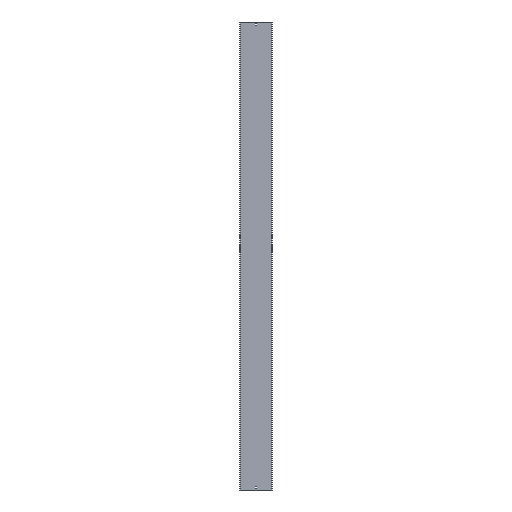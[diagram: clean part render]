
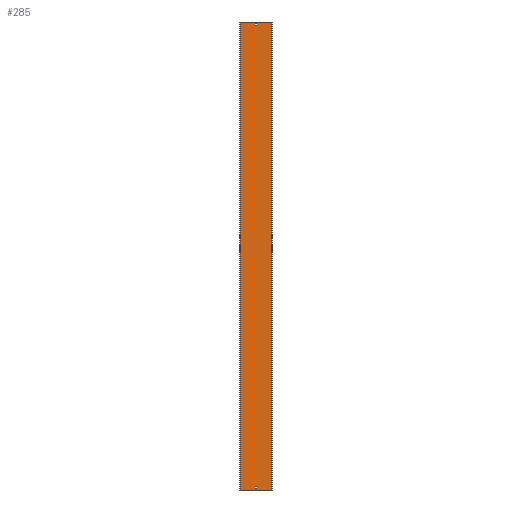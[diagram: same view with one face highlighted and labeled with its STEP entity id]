
A CAD part, front view. The second image highlights one B-rep face of the part: STEP entity #285.
In plain terms, the highlighted planar face has unit normal (0, -1, 0).
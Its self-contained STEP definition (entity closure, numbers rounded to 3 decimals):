
#1 = CARTESIAN_POINT ( 'NONE',  ( -103.5, -1.5, -1500. ) ) ;
#7 = CARTESIAN_POINT ( 'NONE',  ( 102., -1.5, 1500. ) ) ;
#10 = CARTESIAN_POINT ( 'NONE',  ( -103.5, -1.5, -1479. ) ) ;
#25 = VERTEX_POINT ( 'NONE', #115 ) ;
#30 = FACE_BOUND ( 'NONE', #334, .T. ) ;
#32 = CARTESIAN_POINT ( 'NONE',  ( -103.5, -1.5, 1500. ) ) ;
#36 = DIRECTION ( 'NONE',  ( -1., 0., 0. ) ) ;
#51 = VERTEX_POINT ( 'NONE', #179 ) ;
#55 = LINE ( 'NONE', #561, #329 ) ;
#59 = LINE ( 'NONE', #160, #481 ) ;
#72 = LINE ( 'NONE', #32, #554 ) ;
#78 = DIRECTION ( 'NONE',  ( 0., 0., 1. ) ) ;
#80 = CARTESIAN_POINT ( 'NONE',  ( 3.25, -1.5, -1488. ) ) ;
#82 = VECTOR ( 'NONE', #36, 1000. ) ;
#83 = CARTESIAN_POINT ( 'NONE',  ( 3.25, -1.5, 1500. ) ) ;
#86 = ORIENTED_EDGE ( 'NONE', *, *, #311, .F. ) ;
#90 = CARTESIAN_POINT ( 'NONE',  ( -102., -1.5, 1500. ) ) ;
#91 = EDGE_CURVE ( 'NONE', #360, #398, #533, .T. ) ;
#92 = CARTESIAN_POINT ( 'NONE',  ( -3.25, -1.5, 1479. ) ) ;
#96 = ORIENTED_EDGE ( 'NONE', *, *, #298, .F. ) ;
#106 = CARTESIAN_POINT ( 'NONE',  ( -103.5, -1.5, -1488. ) ) ;
#111 = EDGE_LOOP ( 'NONE', ( #119, #391, #571, #367 ) ) ;
#114 = EDGE_LOOP ( 'NONE', ( #165, #291, #138, #374 ) ) ;
#115 = CARTESIAN_POINT ( 'NONE',  ( -3.25, -1.5, -1479. ) ) ;
#119 = ORIENTED_EDGE ( 'NONE', *, *, #162, .F. ) ;
#122 = AXIS2_PLACEMENT_3D ( 'NONE', #127, #211, #488 ) ;
#124 = VECTOR ( 'NONE', #257, 1000. ) ;
#127 = CARTESIAN_POINT ( 'NONE',  ( -103.5, -1.5, 1500. ) ) ;
#133 = CARTESIAN_POINT ( 'NONE',  ( -3.25, -1.5, -1488. ) ) ;
#138 = ORIENTED_EDGE ( 'NONE', *, *, #572, .T. ) ;
#160 = CARTESIAN_POINT ( 'NONE',  ( -103.5, -1.5, 1479. ) ) ;
#162 = EDGE_CURVE ( 'NONE', #310, #398, #403, .T. ) ;
#165 = ORIENTED_EDGE ( 'NONE', *, *, #580, .T. ) ;
#176 = CARTESIAN_POINT ( 'NONE',  ( 102., -1.5, -1500. ) ) ;
#177 = VERTEX_POINT ( 'NONE', #92 ) ;
#179 = CARTESIAN_POINT ( 'NONE',  ( -3.25, -1.5, 1488. ) ) ;
#182 = CARTESIAN_POINT ( 'NONE',  ( -102., -1.5, 1500. ) ) ;
#190 = LINE ( 'NONE', #457, #276 ) ;
#211 = DIRECTION ( 'NONE',  ( 0., -1., 0. ) ) ;
#214 = FACE_OUTER_BOUND ( 'NONE', #111, .T. ) ;
#233 = DIRECTION ( 'NONE',  ( 1., 0., 0. ) ) ;
#238 = LINE ( 'NONE', #10, #491 ) ;
#249 = LINE ( 'NONE', #439, #450 ) ;
#251 = PLANE ( 'NONE',  #122 ) ;
#257 = DIRECTION ( 'NONE',  ( 0., 0., -1. ) ) ;
#258 = FACE_BOUND ( 'NONE', #114, .T. ) ;
#273 = LINE ( 'NONE', #106, #375 ) ;
#276 = VECTOR ( 'NONE', #499, 1000. ) ;
#280 = VERTEX_POINT ( 'NONE', #397 ) ;
#282 = VERTEX_POINT ( 'NONE', #80 ) ;
#284 = EDGE_CURVE ( 'NONE', #498, #25, #249, .T. ) ;
#285 = ADVANCED_FACE ( 'NONE', ( #30, #214, #258 ), #251, .T. ) ;
#291 = ORIENTED_EDGE ( 'NONE', *, *, #284, .T. ) ;
#296 = DIRECTION ( 'NONE',  ( 0., 0., -1. ) ) ;
#298 = EDGE_CURVE ( 'NONE', #51, #177, #347, .T. ) ;
#310 = VERTEX_POINT ( 'NONE', #176 ) ;
#311 = EDGE_CURVE ( 'NONE', #280, #51, #489, .T. ) ;
#317 = DIRECTION ( 'NONE',  ( 0., 0., -1. ) ) ;
#326 = LINE ( 'NONE', #83, #340 ) ;
#329 = VECTOR ( 'NONE', #317, 1000. ) ;
#334 = EDGE_LOOP ( 'NONE', ( #96, #86, #355, #466 ) ) ;
#339 = VERTEX_POINT ( 'NONE', #7 ) ;
#340 = VECTOR ( 'NONE', #78, 1000. ) ;
#347 = LINE ( 'NONE', #453, #520 ) ;
#354 = DIRECTION ( 'NONE',  ( -1., 0., 0. ) ) ;
#355 = ORIENTED_EDGE ( 'NONE', *, *, #470, .F. ) ;
#360 = VERTEX_POINT ( 'NONE', #182 ) ;
#366 = CARTESIAN_POINT ( 'NONE',  ( 3.25, -1.5, -1479. ) ) ;
#367 = ORIENTED_EDGE ( 'NONE', *, *, #91, .T. ) ;
#372 = DIRECTION ( 'NONE',  ( -1., 0., 0. ) ) ;
#374 = ORIENTED_EDGE ( 'NONE', *, *, #415, .T. ) ;
#375 = VECTOR ( 'NONE', #421, 1000. ) ;
#391 = ORIENTED_EDGE ( 'NONE', *, *, #507, .F. ) ;
#393 = VECTOR ( 'NONE', #354, 1000. ) ;
#397 = CARTESIAN_POINT ( 'NONE',  ( 3.25, -1.5, 1488. ) ) ;
#398 = VERTEX_POINT ( 'NONE', #514 ) ;
#403 = LINE ( 'NONE', #1, #393 ) ;
#404 = VERTEX_POINT ( 'NONE', #366 ) ;
#415 = EDGE_CURVE ( 'NONE', #404, #282, #55, .T. ) ;
#421 = DIRECTION ( 'NONE',  ( -1., 0., 0. ) ) ;
#433 = EDGE_CURVE ( 'NONE', #339, #360, #72, .T. ) ;
#439 = CARTESIAN_POINT ( 'NONE',  ( -3.25, -1.5, 1500. ) ) ;
#447 = CARTESIAN_POINT ( 'NONE',  ( -103.5, -1.5, 1488. ) ) ;
#450 = VECTOR ( 'NONE', #534, 1000. ) ;
#453 = CARTESIAN_POINT ( 'NONE',  ( -3.25, -1.5, 1500. ) ) ;
#454 = VERTEX_POINT ( 'NONE', #486 ) ;
#457 = CARTESIAN_POINT ( 'NONE',  ( 102., -1.5, 1500. ) ) ;
#466 = ORIENTED_EDGE ( 'NONE', *, *, #556, .F. ) ;
#470 = EDGE_CURVE ( 'NONE', #454, #280, #326, .T. ) ;
#481 = VECTOR ( 'NONE', #557, 1000. ) ;
#486 = CARTESIAN_POINT ( 'NONE',  ( 3.25, -1.5, 1479. ) ) ;
#488 = DIRECTION ( 'NONE',  ( 0., 0., -1. ) ) ;
#489 = LINE ( 'NONE', #447, #82 ) ;
#491 = VECTOR ( 'NONE', #233, 1000. ) ;
#498 = VERTEX_POINT ( 'NONE', #133 ) ;
#499 = DIRECTION ( 'NONE',  ( 0., 0., -1. ) ) ;
#507 = EDGE_CURVE ( 'NONE', #339, #310, #190, .T. ) ;
#514 = CARTESIAN_POINT ( 'NONE',  ( -102., -1.5, -1500. ) ) ;
#520 = VECTOR ( 'NONE', #296, 1000. ) ;
#533 = LINE ( 'NONE', #90, #124 ) ;
#534 = DIRECTION ( 'NONE',  ( 0., 0., 1. ) ) ;
#554 = VECTOR ( 'NONE', #372, 1000. ) ;
#556 = EDGE_CURVE ( 'NONE', #177, #454, #59, .T. ) ;
#557 = DIRECTION ( 'NONE',  ( 1., 0., 0. ) ) ;
#561 = CARTESIAN_POINT ( 'NONE',  ( 3.25, -1.5, 1500. ) ) ;
#571 = ORIENTED_EDGE ( 'NONE', *, *, #433, .T. ) ;
#572 = EDGE_CURVE ( 'NONE', #25, #404, #238, .T. ) ;
#580 = EDGE_CURVE ( 'NONE', #282, #498, #273, .T. ) ;
